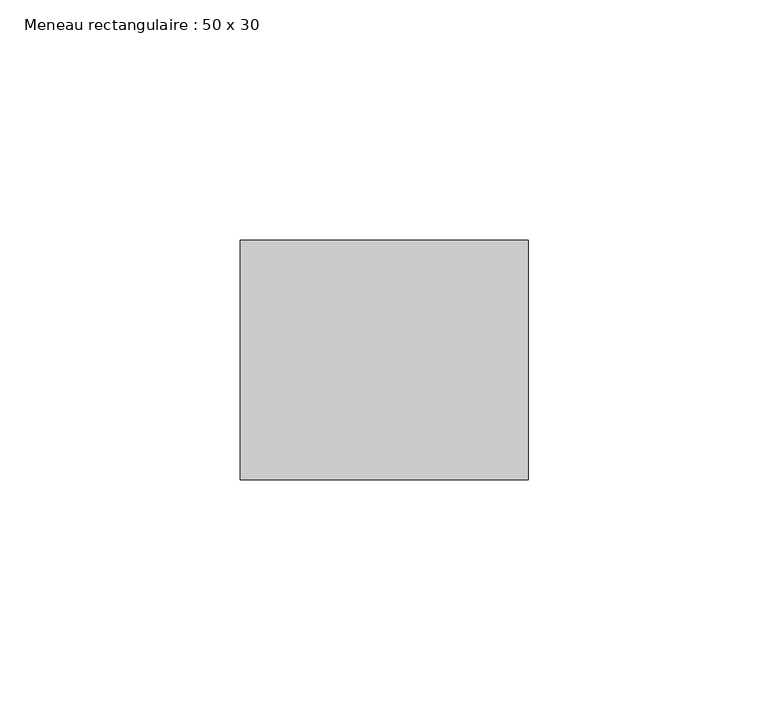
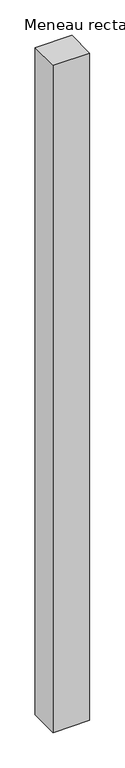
"""IFC4 building model written with IfcOpenShell, lengths in millimetres: member geometry, Meneau rectangulaire : 50 x 30."""

from ifc_helpers import new_model, si_unit, frame, origin, place, context, project, spatial, polyline, outline, extrude, source, transform, mapped, element, save


def meneau_rectangulaire_50_x_30_b85d8013(model_context):
    return source(origin(), model_context, "Body", "SweptSolid", [
        extrude(outline(polyline([(30.0, 0.0), (30.0, -50.0), (-30.0, -50.0), (-30.0, 0.0), (30.0, 0.0)])), frame((0.0, 0.0, -1149.2562307), z_axis=(0.0, 0.0, 1.0), x_axis=(1.0, 0.0, 0.0)), (0.0, 0.0, 1.0), 1149.2562307),
    ])


if __name__ == "__main__":
    model = new_model("IFC4")
    model_context = context("Model", 3, world=origin())
    ifc_project = project(units=[si_unit("LENGTHUNIT", "METRE", prefix="MILLI")], contexts=[model_context])
    site = spatial("IfcSite", under=ifc_project)
    building = spatial("IfcBuilding", under=site)
    placement = place(None, origin())
    meneau_rectangulaire_50_x_30_shape = meneau_rectangulaire_50_x_30_b85d8013(model_context)
    element("IfcMember", 1, ObjectType="Meneau rectangulaire : 50 x 30", at=placement, inside=building, context=model_context, shape_type="MappedRepresentation", body=[
        mapped(meneau_rectangulaire_50_x_30_shape, transform((0.0, 0.0, 0.0), x_axis=(1.0, 0.0, 0.0), y_axis=(0.0, 1.0, 0.0), z_axis=(0.0, 0.0, 1.0))),
    ])
    save(model, "model.ifc")
